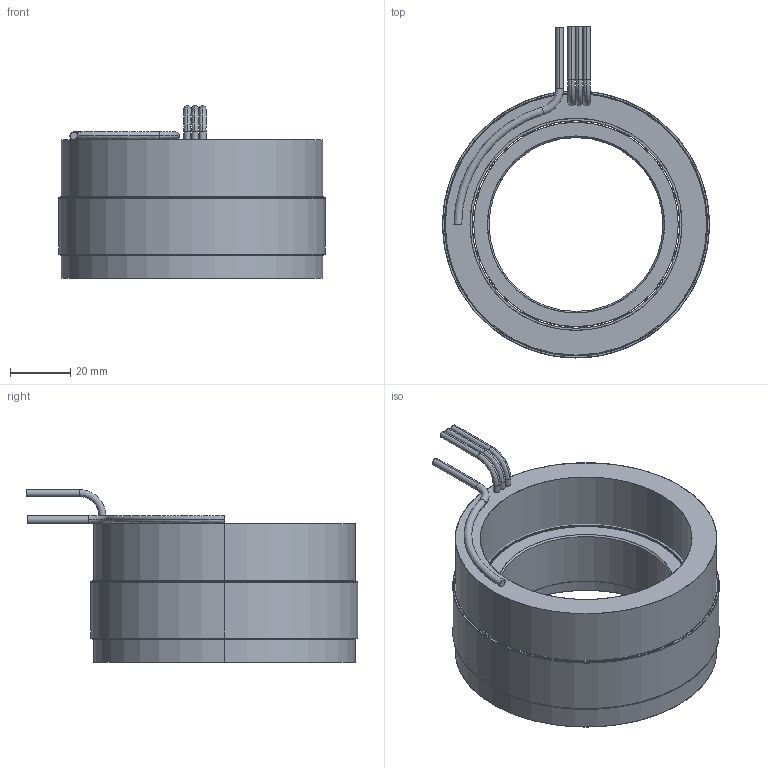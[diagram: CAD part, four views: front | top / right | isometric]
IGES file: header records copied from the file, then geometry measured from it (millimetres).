
Start section: SolidWorks IGES file using analytic representation for surfaces
Global section: file name: \\fs01.aveox.local\user documents\eng\My Documents\6100394-XX STATOR AND ROTOR SET, UT-3500-24P3, SENSORLESS\6100394-01.IGS; native system: SolidWorks 2016; preprocessor: SolidWorks 2016; author: eng; date: 201214.193203; units: inch
Bounding box: 88.9 x 110.49 x 57.53 mm (x, y, z)
Surface area: 71377.5 mm2 (no closed solid volume)
Topology: 0 solids, 0 shells, 75 faces, 2288 edges, 2288 vertices
Faces by surface type: revolution 46, bspline 29
